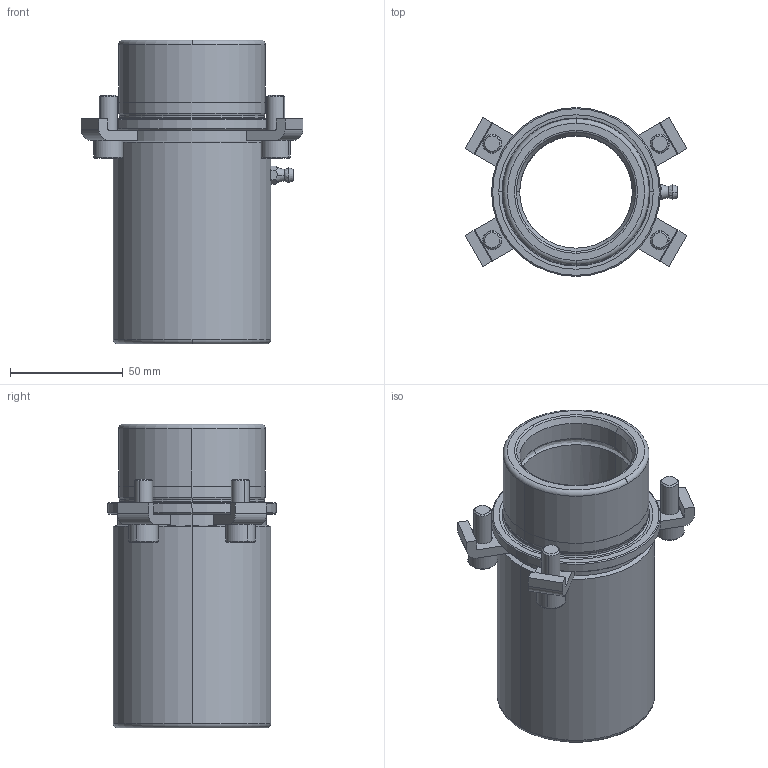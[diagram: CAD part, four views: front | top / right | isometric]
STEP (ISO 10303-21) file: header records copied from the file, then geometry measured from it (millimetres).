
FILE_DESCRIPTION((''),'2;1');
FILE_NAME('B10_050_100.stp','2008-11-06T09:05:33',(''),(''),'Mechanical Desktop 2009','Mechanical Desktop 2009',', , ');
FILE_SCHEMA(('CONFIG_CONTROL_DESIGN'));
Length unit declared in the file: millimetre
Products named in the file (2): Product; blmdl1
Assembly tree (1 placements, depth 2):
  Product
    blmdl1
Bounding box: 98.54 x 75 x 135 mm (x, y, z)
Volume: 247425.2 mm3; surface area: 65013.1 mm2
Topology: 10 solids, 10 shells, 202 faces, 505 edges, 332 vertices
Faces by surface type: plane 82, cylinder 60, cone 24, bspline 18, torus 18
Entity records: 7380 total; most frequent: CARTESIAN_POINT 2302, DIRECTION 1111, ORIENTED_EDGE 1002, EDGE_CURVE 501, AXIS2_PLACEMENT_3D 441, VERTEX_POINT 330, CIRCLE 255, VECTOR 229
